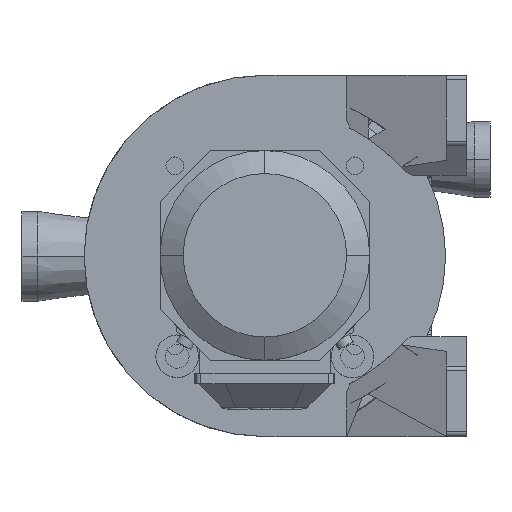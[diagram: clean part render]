
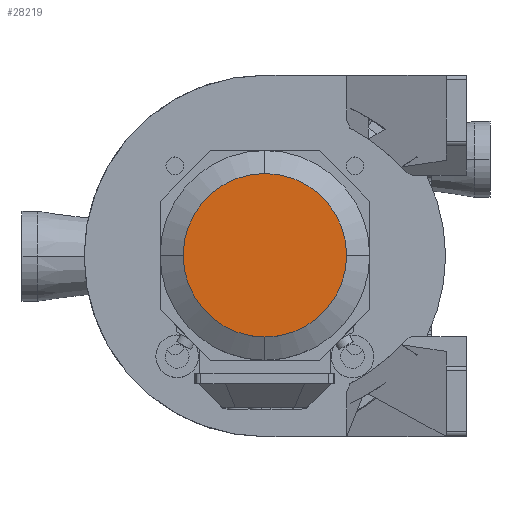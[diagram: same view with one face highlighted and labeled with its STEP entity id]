
A CAD part, top view. The second image highlights one B-rep face of the part: STEP entity #28219.
In plain terms, the highlighted planar face has unit normal (0, 0, 1).
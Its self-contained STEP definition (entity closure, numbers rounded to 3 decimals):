
#23231=CARTESIAN_POINT('',(0.,-69.,415.0));
#23232=VERTEX_POINT('',#23231);
#23239=CARTESIAN_POINT('',(0.,69.,415.0));
#23240=VERTEX_POINT('',#23239);
#23241=CARTESIAN_POINT('',(0.,0.,415.0));
#23242=DIRECTION('',(0.0,0.0,1.0));
#23243=DIRECTION('',(0.0,-1.0,0.0));
#23244=AXIS2_PLACEMENT_3D('',#23241,#23242,#23243);
#23245=CIRCLE('',#23244,69.0);
#23246=EDGE_CURVE('',#23240,#23232,#23245,.T.);
#28204=CARTESIAN_POINT('',(-75.9,75.9,415.0));
#28205=DIRECTION('',(0.0,0.0,1.0));
#28206=DIRECTION('',(0.0,-1.0,0.0));
#28207=AXIS2_PLACEMENT_3D('',#28204,#28205,#28206);
#28208=PLANE('',#28207);
#28209=CARTESIAN_POINT('',(0.,0.,415.0));
#28210=DIRECTION('',(0.0,0.0,1.0));
#28211=DIRECTION('',(0.0,-1.0,0.0));
#28212=AXIS2_PLACEMENT_3D('',#28209,#28210,#28211);
#28213=CIRCLE('',#28212,69.0);
#28214=EDGE_CURVE('',#23232,#23240,#28213,.T.);
#28215=ORIENTED_EDGE('',*,*,#28214,.T.);
#28216=ORIENTED_EDGE('',*,*,#23246,.T.);
#28217=EDGE_LOOP('',(#28215,#28216));
#28218=FACE_OUTER_BOUND('',#28217,.T.);
#28219=ADVANCED_FACE('',(#28218),#28208,.T.);
